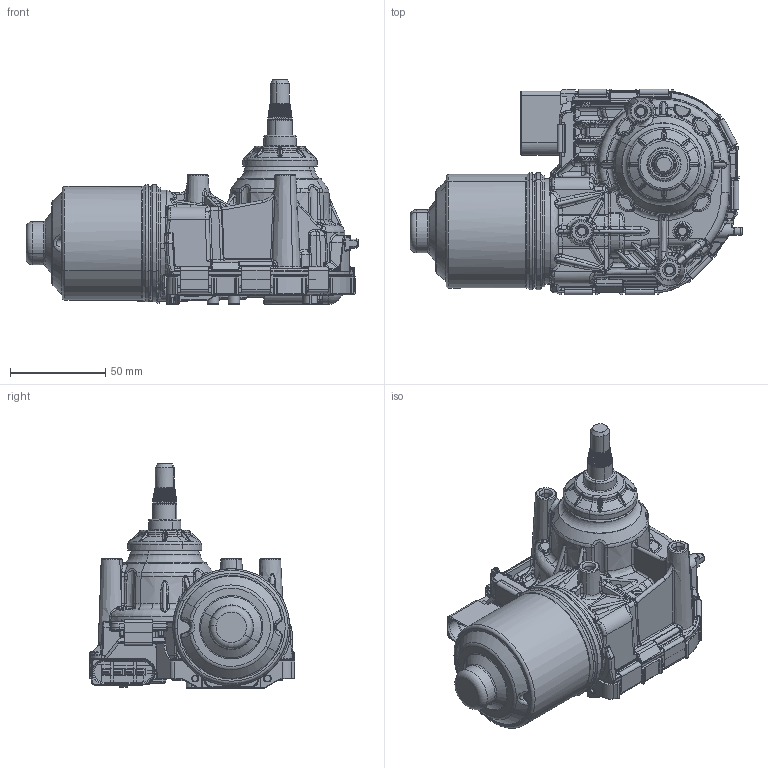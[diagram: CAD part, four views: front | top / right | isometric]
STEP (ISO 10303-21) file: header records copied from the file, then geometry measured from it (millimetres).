
FILE_DESCRIPTION(('CATIA V5 STEP Exchange','CAx-IF Rec.Pracs.--- Model Styling and Organization---1.2---2011-12-15'),'2;1');
FILE_NAME('D:\Temp 2015-10-22\F 02U V00 838-03_AllCATPart.stp','2015-10-29T09:06:22+00:00',('none'),('none'),'CATIA Version 5-6 Release 2014 SP1 HF51','CATIA V5 STEP AP214','none');
FILE_SCHEMA(('AUTOMOTIVE_DESIGN { 1 0 10303 214 1 1 1 1 }'));
Length unit declared in the file: millimetre
Products named in the file (1): F 02U V00 838-03_AllCATPart
Bounding box: 174.7 x 108.14 x 118.05 mm (x, y, z)
Volume: 569973.3 mm3; surface area: 80057.6 mm2
Topology: 10 solids, 11 shells, 4547 faces, 11317 edges, 6664 vertices
Faces by surface type: bspline 1343, plane 1216, cylinder 1198, torus 510, cone 148, sphere 132
Entity records: 210694 total; most frequent: CARTESIAN_POINT 119826, ORIENTED_EDGE 22282, DIRECTION 12327, EDGE_CURVE 11141, VERTEX_POINT 6659, AXIS2_PLACEMENT_3D 5239, B_SPLINE_CURVE_WITH_KNOTS 4771, EDGE_LOOP 4608
